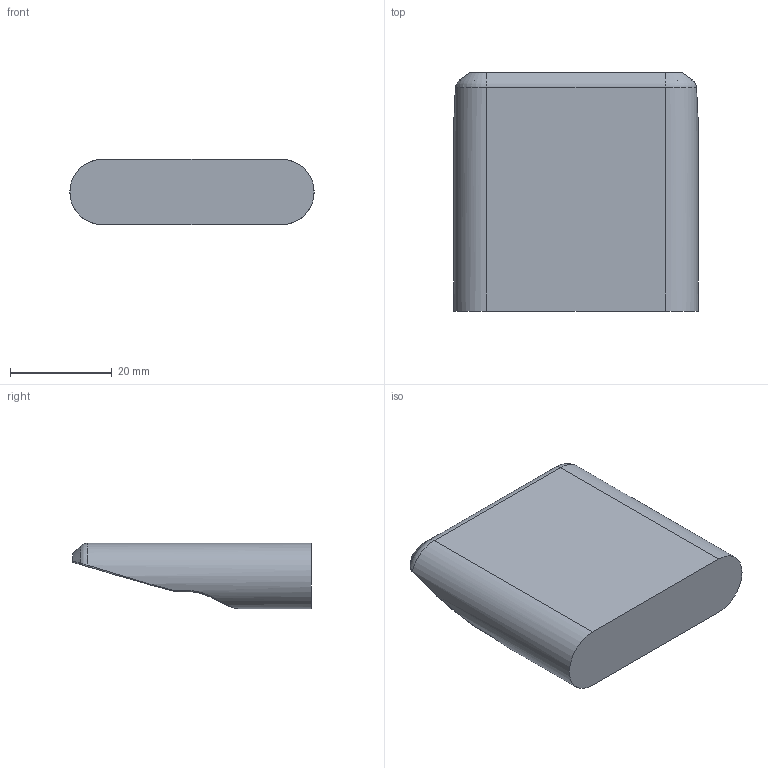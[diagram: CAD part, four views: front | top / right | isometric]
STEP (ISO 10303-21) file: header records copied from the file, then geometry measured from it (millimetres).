
FILE_DESCRIPTION (( 'STEP AP203' ), '1' );
FILE_NAME ('AAA x4 Holder.STEP', '2023-04-28T22:43:53', ( '' ), ( '' ), 'SwSTEP 2.0', 'SolidWorks 2021', '' );
FILE_SCHEMA (( 'CONFIG_CONTROL_DESIGN' ));
Length unit declared in the file: millimetre
Products named in the file (1): AAA x4 Holder
Bounding box: 47.91 x 46.75 x 12.81 mm (x, y, z)
Volume: 6331.6 mm3; surface area: 8299.2 mm2
Topology: 1 solids, 1 shells, 130 faces, 322 edges, 190 vertices
Faces by surface type: cylinder 46, bspline 38, plane 24, torus 18, cone 4
Entity records: 5815 total; most frequent: CARTESIAN_POINT 2965, ORIENTED_EDGE 636, DIRECTION 510, EDGE_CURVE 318, AXIS2_PLACEMENT_3D 207, VERTEX_POINT 190, ADVANCED_FACE 130, FACE_OUTER_BOUND 130
